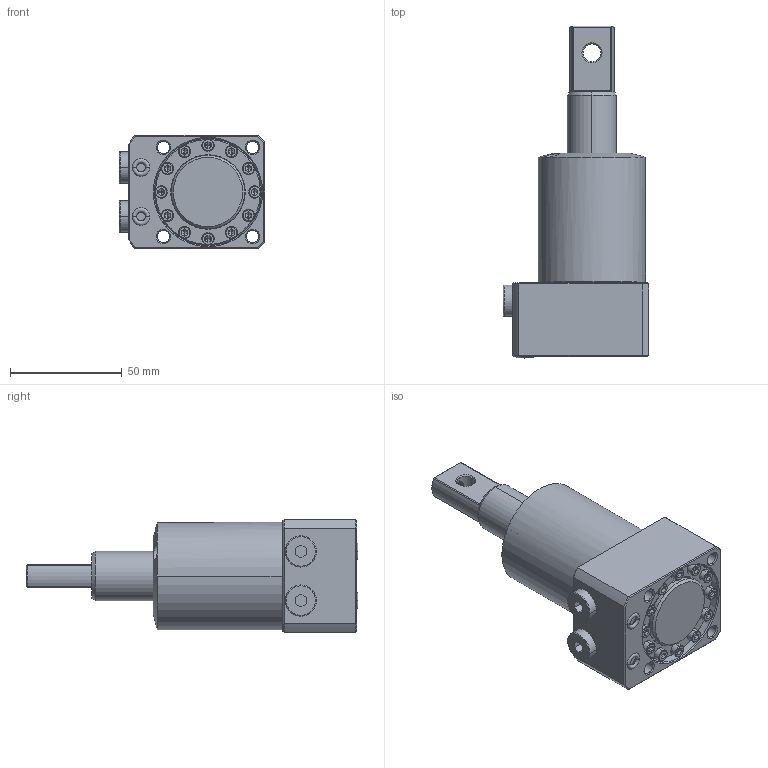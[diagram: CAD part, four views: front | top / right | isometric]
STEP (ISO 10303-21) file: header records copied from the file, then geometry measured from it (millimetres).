
FILE_DESCRIPTION((''),'2;1');
FILE_NAME('SIMP_GENERIC_SWING_CYD_48_PIN_ASM','2023-04-16T15:52:03',('Design 2'),(''),'CREO PARAMETRIC BY PTC INC, 2020053','CREO PARAMETRIC BY PTC INC, 2020053','');
FILE_SCHEMA(('CONFIG_CONTROL_DESIGN'));
Length unit declared in the file: millimetre
Products named in the file (13): BODY___; BODY_TOP_FLG____ASM; PIN_PISTON____S; PISTON_ASM____ASM; SWINGER_ARM___; SWINGER_ARM_ASM____ASM; G-1-8-CLOSE_PLUGE_; STATIC-O-RING-8X2___; 1___; 2___; HHALDER_SEALING_PLG_ASM; ISHCS03X12_; SIMP_GENERIC_SWING_CYD_48_PIN_ASM
Assembly tree (25 placements, depth 3):
  SIMP_GENERIC_SWING_CYD_48_PIN_ASM
    BODY_TOP_FLG____ASM
      BODY___
    PISTON_ASM____ASM
      PIN_PISTON____S
    SWINGER_ARM_ASM____ASM
      SWINGER_ARM___
    G-1-8-CLOSE_PLUGE_  x2
    STATIC-O-RING-8X2___  x2
    HHALDER_SEALING_PLG_ASM
      1___
      2___
    ISHCS03X12_  x12
Bounding box: 65.3 x 148.7 x 51 mm (x, y, z)
Volume: 206760.6 mm3; surface area: 49705.7 mm2
Topology: 21 solids, 21 shells, 791 faces, 1724 edges, 990 vertices
Faces by surface type: plane 258, cylinder 246, cone 224, torus 42, bspline 18, sphere 3
Entity records: 14572 total; most frequent: CARTESIAN_POINT 5003, DIRECTION 2068, ORIENTED_EDGE 1828, EDGE_CURVE 914, AXIS2_PLACEMENT_3D 826, VERTEX_POINT 540, EDGE_LOOP 474, VECTOR 416
